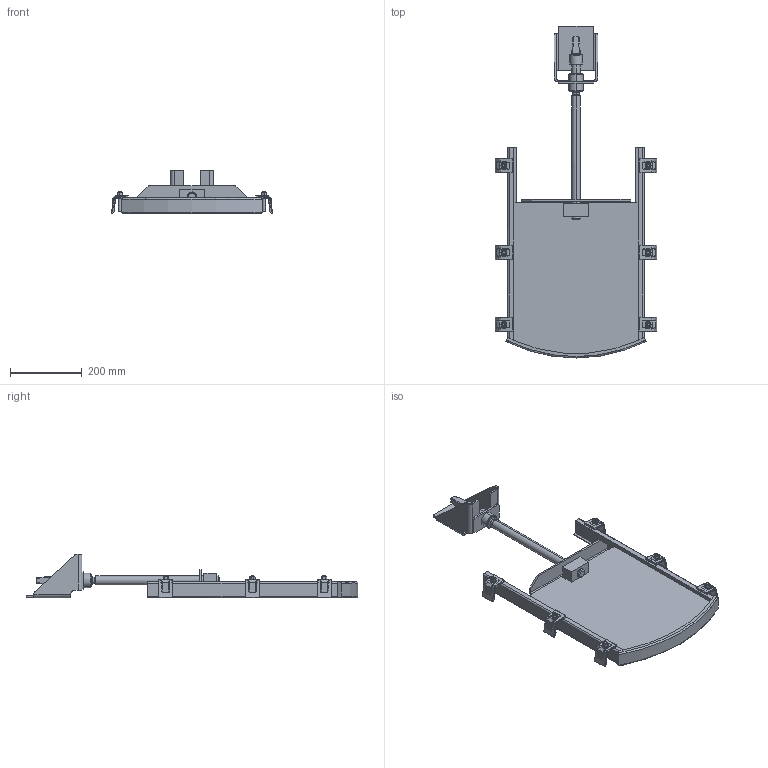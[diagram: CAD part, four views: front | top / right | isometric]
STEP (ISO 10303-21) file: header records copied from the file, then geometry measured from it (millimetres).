
FILE_DESCRIPTION (( 'STEP AP214' ), '1' );
FILE_NAME ('LW 300 gerad betoniert.STEP', '2022-05-19T04:29:15', ( '' ), ( '' ), 'SwSTEP 2.0', 'SolidWorks 2021', '' );
FILE_SCHEMA (( 'AUTOMOTIVE_DESIGN' ));
Length unit declared in the file: millimetre
Products named in the file (1): LW 300 gerad betoniert
Bounding box: 449.57 x 925 x 121 mm (x, y, z)
Volume: 2706204.4 mm3; surface area: 762471.4 mm2
Topology: 1 solids, 1 shells, 996 faces, 2304 edges, 1276 vertices
Faces by surface type: cylinder 389, plane 281, cone 90, sphere 86, torus 80, bspline 70
Entity records: 41359 total; most frequent: CARTESIAN_POINT 8811, DIRECTION 4694, ORIENTED_EDGE 4432, EDGE_CURVE 2216, AXIS2_PLACEMENT_3D 1887, VERTEX_POINT 1264, EDGE_LOOP 1048, UNCERTAINTY_MEASURE_WITH_UNIT 998
